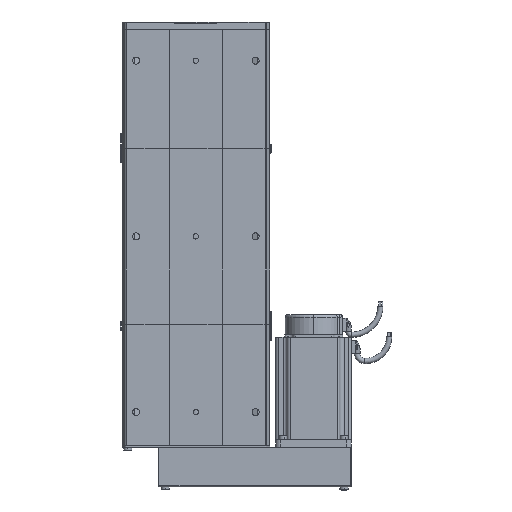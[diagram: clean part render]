
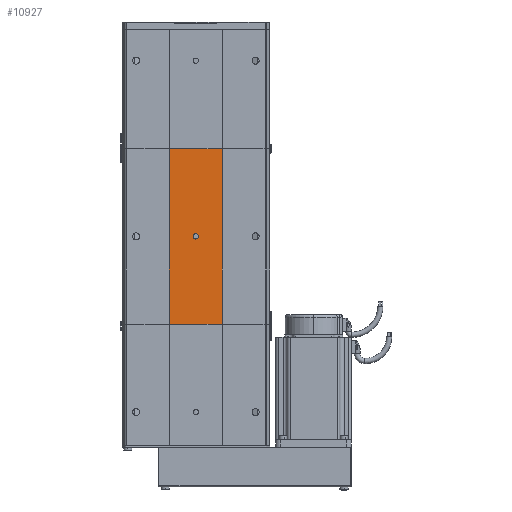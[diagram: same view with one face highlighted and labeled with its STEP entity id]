
A CAD part, front view. The second image highlights one B-rep face of the part: STEP entity #10927.
In plain terms, the highlighted planar face has unit normal (0, -1, 0).
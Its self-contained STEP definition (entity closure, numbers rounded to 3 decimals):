
#524 = DIRECTION ( 'NONE',  ( -1., 0., 0. ) ) ;
#581 = VECTOR ( 'NONE', #524, 1000. ) ;
#663 = CARTESIAN_POINT ( 'NONE',  ( -30., -32.5, 0. ) ) ;
#735 = LINE ( 'NONE', #663, #581 ) ;
#1096 = DIRECTION ( 'NONE',  ( 0., 0., 1. ) ) ;
#1097 = VECTOR ( 'NONE', #1096, 1000. ) ;
#1104 = CARTESIAN_POINT ( 'NONE',  ( 30., -32.5, 0. ) ) ;
#1105 = LINE ( 'NONE', #1104, #1097 ) ;
#1494 = CARTESIAN_POINT ( 'NONE',  ( -30., -32.5, 0. ) ) ;
#1513 = CARTESIAN_POINT ( 'NONE',  ( 30., -32.5, 0. ) ) ;
#2012 = DIRECTION ( 'NONE',  ( 0., 0., -1. ) ) ;
#2109 = DIRECTION ( 'NONE',  ( 0., 0., 1. ) ) ;
#2110 = DIRECTION ( 'NONE',  ( 0., 1., 0. ) ) ;
#2135 = FACE_BOUND ( 'NONE', #11047, .T. ) ;
#2138 = CARTESIAN_POINT ( 'NONE',  ( -30., -32.5, 0. ) ) ;
#2159 = FACE_OUTER_BOUND ( 'NONE', #10893, .T. ) ;
#2178 = AXIS2_PLACEMENT_3D ( 'NONE', #2138, #2110, #2109 ) ;
#2189 = PLANE ( 'NONE',  #2178 ) ;
#2212 = AXIS2_PLACEMENT_3D ( 'NONE', #2323, #2321, #2012 ) ;
#2221 = LINE ( 'NONE', #2335, #2333 ) ;
#2222 = CIRCLE ( 'NONE', #2212, 3. ) ;
#2321 = DIRECTION ( 'NONE',  ( 0., -1., 0. ) ) ;
#2323 = CARTESIAN_POINT ( 'NONE',  ( 0., -32.5, 100. ) ) ;
#2332 = DIRECTION ( 'NONE',  ( 0., 0., 1. ) ) ;
#2333 = VECTOR ( 'NONE', #2332, 1000. ) ;
#2335 = CARTESIAN_POINT ( 'NONE',  ( -30., -32.5, 0. ) ) ;
#10591 = ORIENTED_EDGE ( 'NONE', *, *, #10832, .F. ) ;
#10592 = EDGE_CURVE ( 'NONE', #13573, #16598, #1105, .T. ) ;
#10593 = ORIENTED_EDGE ( 'NONE', *, *, #13349, .F. ) ;
#10832 = EDGE_CURVE ( 'NONE', #13545, #16482, #2221, .T. ) ;
#10834 = EDGE_CURVE ( 'NONE', #15629, #15904, #2222, .T. ) ;
#10893 = EDGE_LOOP ( 'NONE', ( #10928, #10591, #10593, #11021 ) ) ;
#10927 = ADVANCED_FACE ( 'NONE', ( #2135, #2159 ), #2189, .F. ) ;
#10928 = ORIENTED_EDGE ( 'NONE', *, *, #16611, .T. ) ;
#10998 = ORIENTED_EDGE ( 'NONE', *, *, #15833, .F. ) ;
#10999 = ORIENTED_EDGE ( 'NONE', *, *, #10834, .F. ) ;
#11021 = ORIENTED_EDGE ( 'NONE', *, *, #10592, .T. ) ;
#11047 = EDGE_LOOP ( 'NONE', ( #10999, #10998 ) ) ;
#13349 = EDGE_CURVE ( 'NONE', #13573, #13545, #735, .T. ) ;
#13545 = VERTEX_POINT ( 'NONE', #1494 ) ;
#13573 = VERTEX_POINT ( 'NONE', #1513 ) ;
#15629 = VERTEX_POINT ( 'NONE', #34785 ) ;
#15833 = EDGE_CURVE ( 'NONE', #15904, #15629, #34950, .T. ) ;
#15904 = VERTEX_POINT ( 'NONE', #35179 ) ;
#16482 = VERTEX_POINT ( 'NONE', #37415 ) ;
#16598 = VERTEX_POINT ( 'NONE', #37901 ) ;
#16611 = EDGE_CURVE ( 'NONE', #16598, #16482, #37713, .T. ) ;
#34785 = CARTESIAN_POINT ( 'NONE',  ( 0., -32.5, 97. ) ) ;
#34912 = DIRECTION ( 'NONE',  ( 0., 0., -1. ) ) ;
#34913 = DIRECTION ( 'NONE',  ( 0., -1., 0. ) ) ;
#34916 = AXIS2_PLACEMENT_3D ( 'NONE', #34990, #34913, #34912 ) ;
#34950 = CIRCLE ( 'NONE', #34916, 3. ) ;
#34990 = CARTESIAN_POINT ( 'NONE',  ( 0., -32.5, 100. ) ) ;
#35179 = CARTESIAN_POINT ( 'NONE',  ( 0., -32.5, 103. ) ) ;
#37415 = CARTESIAN_POINT ( 'NONE',  ( -30., -32.5, 200. ) ) ;
#37709 = DIRECTION ( 'NONE',  ( -1., 0., 0. ) ) ;
#37710 = VECTOR ( 'NONE', #37709, 1000. ) ;
#37712 = CARTESIAN_POINT ( 'NONE',  ( -30., -32.5, 200. ) ) ;
#37713 = LINE ( 'NONE', #37712, #37710 ) ;
#37901 = CARTESIAN_POINT ( 'NONE',  ( 30., -32.5, 200. ) ) ;
